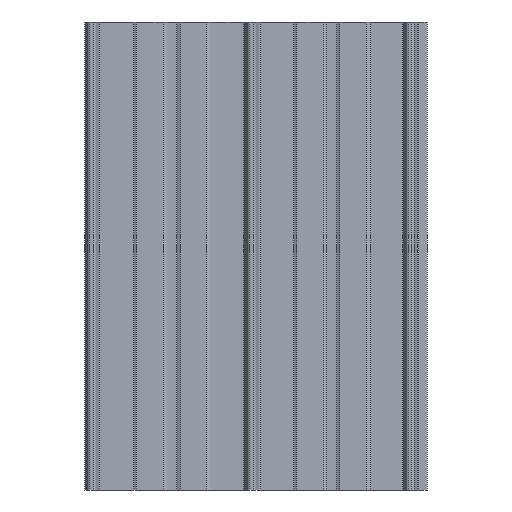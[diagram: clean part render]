
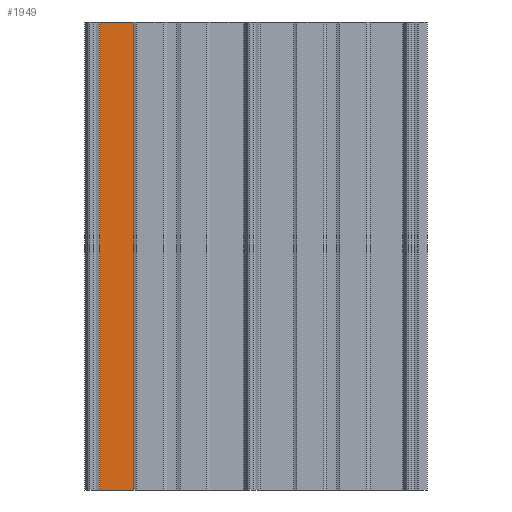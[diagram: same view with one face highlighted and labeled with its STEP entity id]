
A CAD part, front view. The second image highlights one B-rep face of the part: STEP entity #1949.
In plain terms, the highlighted planar face has unit normal (0, -1, 0).
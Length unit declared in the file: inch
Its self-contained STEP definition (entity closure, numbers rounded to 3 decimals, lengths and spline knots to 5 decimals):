
#17 = LINE ( 'NONE', #2548, #518 ) ;
#174 = CARTESIAN_POINT ( 'NONE',  ( -7.56111, -0.04036, -30. ) ) ;
#281 = PLANE ( 'NONE',  #1296 ) ;
#320 = EDGE_CURVE ( 'NONE', #1775, #1824, #666, .T. ) ;
#387 = DIRECTION ( 'NONE',  ( 0., 0., 1. ) ) ;
#485 = DIRECTION ( 'NONE',  ( 1., 0., 0. ) ) ;
#499 = DIRECTION ( 'NONE',  ( 1., 0., 0. ) ) ;
#518 = VECTOR ( 'NONE', #1414, 39.37008 ) ;
#533 = CARTESIAN_POINT ( 'NONE',  ( -7.56111, -0.04036, -30. ) ) ;
#666 = LINE ( 'NONE', #1135, #2355 ) ;
#1060 = VECTOR ( 'NONE', #387, 39.37008 ) ;
#1135 = CARTESIAN_POINT ( 'NONE',  ( -9.74912, -0.04036, -30. ) ) ;
#1144 = EDGE_LOOP ( 'NONE', ( #1638, #1874, #1347, #1145 ) ) ;
#1145 = ORIENTED_EDGE ( 'NONE', *, *, #2142, .T. ) ;
#1247 = EDGE_CURVE ( 'NONE', #1775, #2746, #2300, .T. ) ;
#1296 = AXIS2_PLACEMENT_3D ( 'NONE', #2727, #1820, #499 ) ;
#1347 = ORIENTED_EDGE ( 'NONE', *, *, #320, .T. ) ;
#1384 = CARTESIAN_POINT ( 'NONE',  ( -9.74912, -0.04036, -30. ) ) ;
#1414 = DIRECTION ( 'NONE',  ( 1., 0., 0. ) ) ;
#1638 = ORIENTED_EDGE ( 'NONE', *, *, #2365, .F. ) ;
#1654 = CARTESIAN_POINT ( 'NONE',  ( -9.74912, -0.04036, 0. ) ) ;
#1738 = FACE_OUTER_BOUND ( 'NONE', #1144, .T. ) ;
#1775 = VERTEX_POINT ( 'NONE', #1384 ) ;
#1820 = DIRECTION ( 'NONE',  ( 0., -1., 0. ) ) ;
#1824 = VERTEX_POINT ( 'NONE', #533 ) ;
#1874 = ORIENTED_EDGE ( 'NONE', *, *, #1247, .F. ) ;
#1949 = ADVANCED_FACE ( 'NONE', ( #1738 ), #281, .T. ) ;
#2018 = DIRECTION ( 'NONE',  ( 0., 0., 1. ) ) ;
#2142 = EDGE_CURVE ( 'NONE', #1824, #2637, #2306, .T. ) ;
#2149 = VECTOR ( 'NONE', #2018, 39.37008 ) ;
#2300 = LINE ( 'NONE', #2490, #2149 ) ;
#2306 = LINE ( 'NONE', #174, #1060 ) ;
#2355 = VECTOR ( 'NONE', #485, 39.37008 ) ;
#2365 = EDGE_CURVE ( 'NONE', #2746, #2637, #17, .T. ) ;
#2490 = CARTESIAN_POINT ( 'NONE',  ( -9.74912, -0.04036, -30. ) ) ;
#2548 = CARTESIAN_POINT ( 'NONE',  ( -9.74912, -0.04036, 0. ) ) ;
#2637 = VERTEX_POINT ( 'NONE', #2733 ) ;
#2727 = CARTESIAN_POINT ( 'NONE',  ( -9.74912, -0.04036, -30. ) ) ;
#2733 = CARTESIAN_POINT ( 'NONE',  ( -7.56111, -0.04036, 0. ) ) ;
#2746 = VERTEX_POINT ( 'NONE', #1654 ) ;
